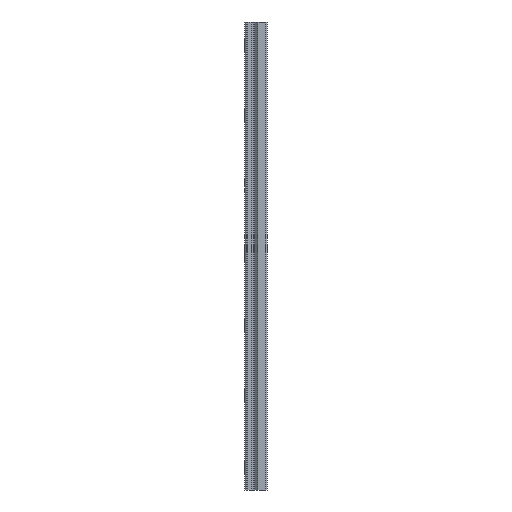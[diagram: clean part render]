
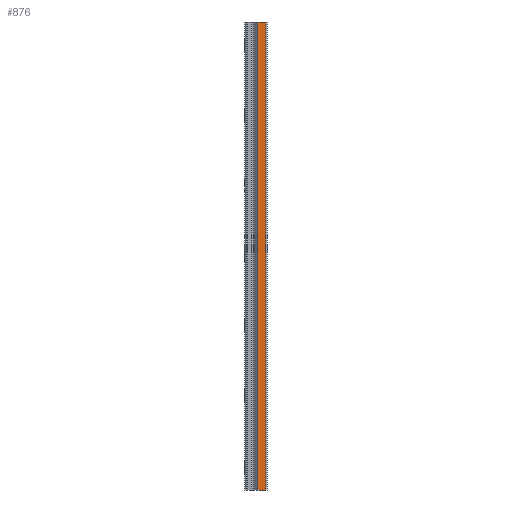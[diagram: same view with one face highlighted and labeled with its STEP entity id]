
A CAD part, left-side view. The second image highlights one B-rep face of the part: STEP entity #876.
In plain terms, the highlighted planar face has unit normal (-1, 0, 0).
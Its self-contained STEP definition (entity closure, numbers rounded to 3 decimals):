
#23 = AXIS2_PLACEMENT_3D ( 'NONE', #996, #75, #245 ) ;
#75 = DIRECTION ( 'NONE',  ( 1., 0., 0. ) ) ;
#99 = DIRECTION ( 'NONE',  ( 0., 0., 1. ) ) ;
#245 = DIRECTION ( 'NONE',  ( 0., 1., 0. ) ) ;
#300 = EDGE_CURVE ( 'NONE', #724, #998, #711, .T. ) ;
#362 = EDGE_CURVE ( 'NONE', #1112, #640, #1087, .T. ) ;
#375 = EDGE_LOOP ( 'NONE', ( #558, #1827, #1759, #1710 ) ) ;
#478 = EDGE_CURVE ( 'NONE', #998, #640, #570, .T. ) ;
#500 = FACE_OUTER_BOUND ( 'NONE', #375, .T. ) ;
#516 = CARTESIAN_POINT ( 'NONE',  ( -11.5, 19.2, -200. ) ) ;
#558 = ORIENTED_EDGE ( 'NONE', *, *, #300, .T. ) ;
#570 = LINE ( 'NONE', #849, #759 ) ;
#640 = VERTEX_POINT ( 'NONE', #1589 ) ;
#711 = LINE ( 'NONE', #516, #1241 ) ;
#724 = VERTEX_POINT ( 'NONE', #950 ) ;
#759 = VECTOR ( 'NONE', #99, 1000. ) ;
#838 = PLANE ( 'NONE',  #23 ) ;
#849 = CARTESIAN_POINT ( 'NONE',  ( -11.5, 1.25, 200. ) ) ;
#876 = ADVANCED_FACE ( 'NONE', ( #500 ), #838, .F. ) ;
#950 = CARTESIAN_POINT ( 'NONE',  ( -11.5, 7.95, -200. ) ) ;
#996 = CARTESIAN_POINT ( 'NONE',  ( -11.5, 19.2, 200. ) ) ;
#998 = VERTEX_POINT ( 'NONE', #1197 ) ;
#1087 = LINE ( 'NONE', #1403, #1156 ) ;
#1101 = EDGE_CURVE ( 'NONE', #724, #1112, #1333, .T. ) ;
#1112 = VERTEX_POINT ( 'NONE', #1351 ) ;
#1156 = VECTOR ( 'NONE', #1264, 1000. ) ;
#1197 = CARTESIAN_POINT ( 'NONE',  ( -11.5, 1.25, -200. ) ) ;
#1213 = DIRECTION ( 'NONE',  ( 0., 0., 1. ) ) ;
#1225 = CARTESIAN_POINT ( 'NONE',  ( -11.5, 7.95, -200. ) ) ;
#1241 = VECTOR ( 'NONE', #1593, 1000. ) ;
#1264 = DIRECTION ( 'NONE',  ( 0., -1., 0. ) ) ;
#1333 = LINE ( 'NONE', #1225, #1799 ) ;
#1351 = CARTESIAN_POINT ( 'NONE',  ( -11.5, 7.95, 200. ) ) ;
#1403 = CARTESIAN_POINT ( 'NONE',  ( -11.5, 19.2, 200. ) ) ;
#1589 = CARTESIAN_POINT ( 'NONE',  ( -11.5, 1.25, 200. ) ) ;
#1593 = DIRECTION ( 'NONE',  ( 0., -1., 0. ) ) ;
#1710 = ORIENTED_EDGE ( 'NONE', *, *, #1101, .F. ) ;
#1759 = ORIENTED_EDGE ( 'NONE', *, *, #362, .F. ) ;
#1799 = VECTOR ( 'NONE', #1213, 1000. ) ;
#1827 = ORIENTED_EDGE ( 'NONE', *, *, #478, .T. ) ;
